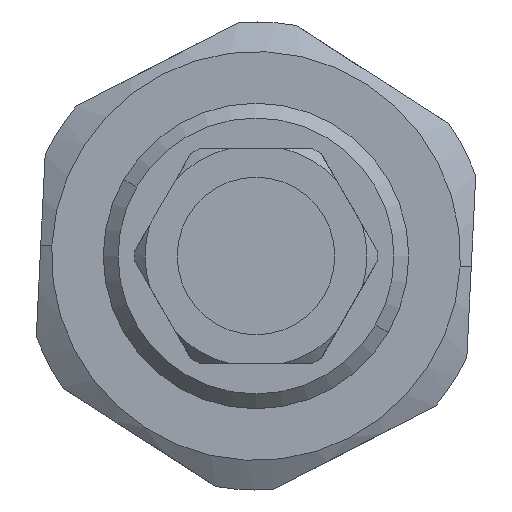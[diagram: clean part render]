
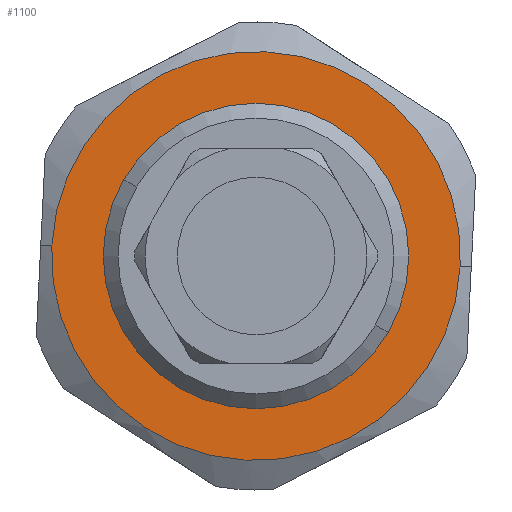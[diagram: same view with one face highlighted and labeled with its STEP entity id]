
A CAD part, left-side view. The second image highlights one B-rep face of the part: STEP entity #1100.
In plain terms, the highlighted planar face has unit normal (-1, 0, 0).
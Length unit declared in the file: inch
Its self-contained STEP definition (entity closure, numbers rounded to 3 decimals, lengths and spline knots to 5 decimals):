
#10 = CARTESIAN_POINT ( 'NONE',  ( 0.46653, 0.45558, -0.32579 ) ) ;
#11 = DIRECTION ( 'NONE',  ( -1., 0., 0. ) ) ;
#12 = DIRECTION ( 'NONE',  ( 0., 0., 1. ) ) ;
#32 = CARTESIAN_POINT ( 'NONE',  ( 0.46653, 0.45558, -0.32579 ) ) ;
#33 = DIRECTION ( 'NONE',  ( -1., 0., 0. ) ) ;
#34 = DIRECTION ( 'NONE',  ( 0., -0.999, -0.049 ) ) ;
#116 = CARTESIAN_POINT ( 'NONE',  ( 0.46653, 0.45558, -0.32579 ) ) ;
#117 = DIRECTION ( 'NONE',  ( -1., 0., 0. ) ) ;
#118 = DIRECTION ( 'NONE',  ( 0., -0.999, -0.049 ) ) ;
#457 = CARTESIAN_POINT ( 'NONE',  ( 0.46653, 0.45558, -0.32579 ) ) ;
#458 = DIRECTION ( 'NONE',  ( -1., 0., 0. ) ) ;
#459 = DIRECTION ( 'NONE',  ( 0., 0., 1. ) ) ;
#920 = EDGE_LOOP ( 'NONE', ( #3254, #3338 ) ) ;
#957 = EDGE_LOOP ( 'NONE', ( #3273, #3264 ) ) ;
#1100 = ADVANCED_FACE ( 'NONE', ( #1629, #1790 ), #2939, .T. ) ;
#1521 = CIRCLE ( 'NONE', #2558, 0.415 ) ;
#1529 = EDGE_CURVE ( 'NONE', #3715, #3714, #1921, .T. ) ;
#1533 = EDGE_CURVE ( 'NONE', #3709, #3703, #1521, .T. ) ;
#1629 = FACE_OUTER_BOUND ( 'NONE', #920, .T. ) ;
#1790 = FACE_BOUND ( 'NONE', #957, .T. ) ;
#1847 = EDGE_CURVE ( 'NONE', #3703, #3709, #3375, .T. ) ;
#1921 = CIRCLE ( 'NONE', #2557, 0.31 ) ;
#2219 = CARTESIAN_POINT ( 'NONE',  ( 0.46653, 0.87008, -0.30553 ) ) ;
#2226 = CARTESIAN_POINT ( 'NONE',  ( 0.46653, 0.04107, -0.34605 ) ) ;
#2233 = CARTESIAN_POINT ( 'NONE',  ( 0.46653, 0.18711, -0.48079 ) ) ;
#2234 = CARTESIAN_POINT ( 'NONE',  ( 0.46653, 0.72405, -0.17079 ) ) ;
#2389 = EDGE_CURVE ( 'NONE', #3714, #3715, #3456, .T. ) ;
#2557 = AXIS2_PLACEMENT_3D ( 'NONE', #10, #11, #12 ) ;
#2558 = AXIS2_PLACEMENT_3D ( 'NONE', #32, #33, #34 ) ;
#2567 = AXIS2_PLACEMENT_3D ( 'NONE', #116, #117, #118 ) ;
#2591 = AXIS2_PLACEMENT_3D ( 'NONE', #457, #458, #459 ) ;
#2930 = DIRECTION ( 'NONE',  ( -1., 0., 0. ) ) ;
#2939 = PLANE ( 'NONE',  #3637 ) ;
#3030 = CARTESIAN_POINT ( 'NONE',  ( 0.46653, 0.45558, -0.32579 ) ) ;
#3034 = DIRECTION ( 'NONE',  ( 0., -0.999, -0.049 ) ) ;
#3254 = ORIENTED_EDGE ( 'NONE', *, *, #1533, .T. ) ;
#3264 = ORIENTED_EDGE ( 'NONE', *, *, #2389, .F. ) ;
#3273 = ORIENTED_EDGE ( 'NONE', *, *, #1529, .F. ) ;
#3338 = ORIENTED_EDGE ( 'NONE', *, *, #1847, .T. ) ;
#3375 = CIRCLE ( 'NONE', #2567, 0.415 ) ;
#3456 = CIRCLE ( 'NONE', #2591, 0.31 ) ;
#3637 = AXIS2_PLACEMENT_3D ( 'NONE', #3030, #2930, #3034 ) ;
#3703 = VERTEX_POINT ( 'NONE', #2219 ) ;
#3709 = VERTEX_POINT ( 'NONE', #2226 ) ;
#3714 = VERTEX_POINT ( 'NONE', #2233 ) ;
#3715 = VERTEX_POINT ( 'NONE', #2234 ) ;
